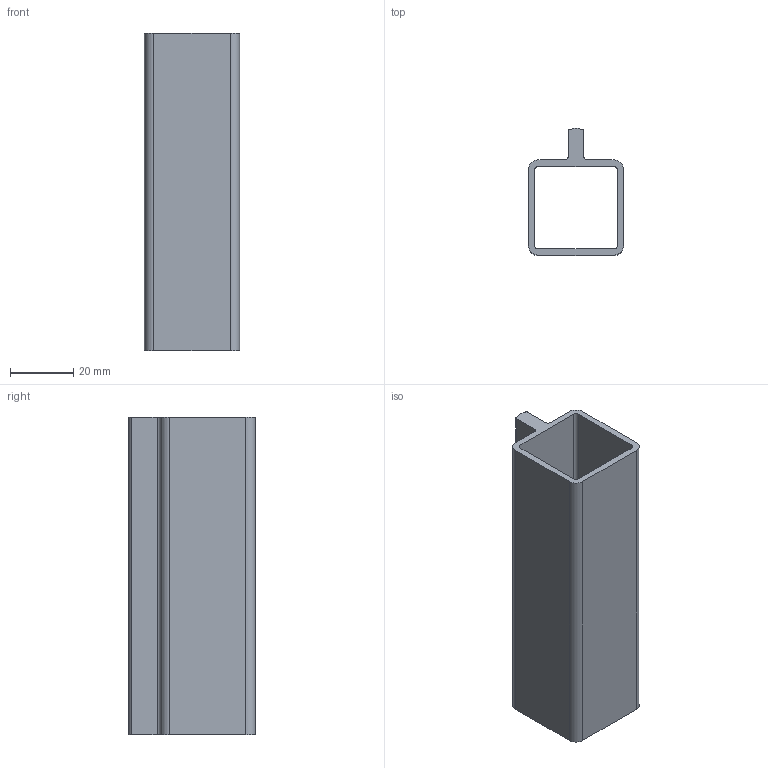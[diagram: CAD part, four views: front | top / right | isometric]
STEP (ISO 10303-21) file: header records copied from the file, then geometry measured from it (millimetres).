
FILE_DESCRIPTION (( 'STEP AP203' ), '1' );
FILE_NAME ('013.030.011.STEP', '2020-09-18T14:22:12', ( '' ), ( '' ), 'SwSTEP 2.0', 'SolidWorks 2018', '' );
FILE_SCHEMA (( 'CONFIG_CONTROL_DESIGN' ));
Length unit declared in the file: millimetre
Products named in the file (1): 013.030.011
Bounding box: 30 x 39.99 x 100 mm (x, y, z)
Volume: 26630.5 mm3; surface area: 24038.6 mm2
Topology: 1 solids, 1 shells, 28 faces, 78 edges, 52 vertices
Faces by surface type: plane 15, cylinder 13
Entity records: 989 total; most frequent: DIRECTION 162, CARTESIAN_POINT 159, ORIENTED_EDGE 156, EDGE_CURVE 78, AXIS2_PLACEMENT_3D 55, LINE 52, VECTOR 52, VERTEX_POINT 52
